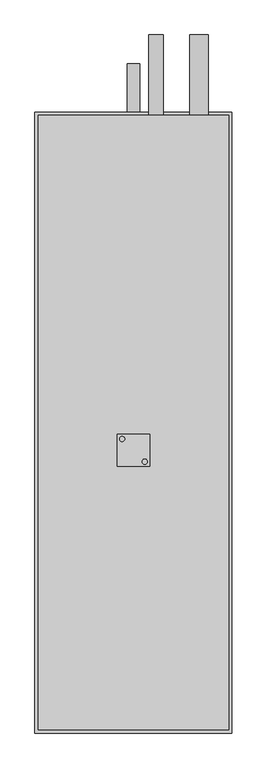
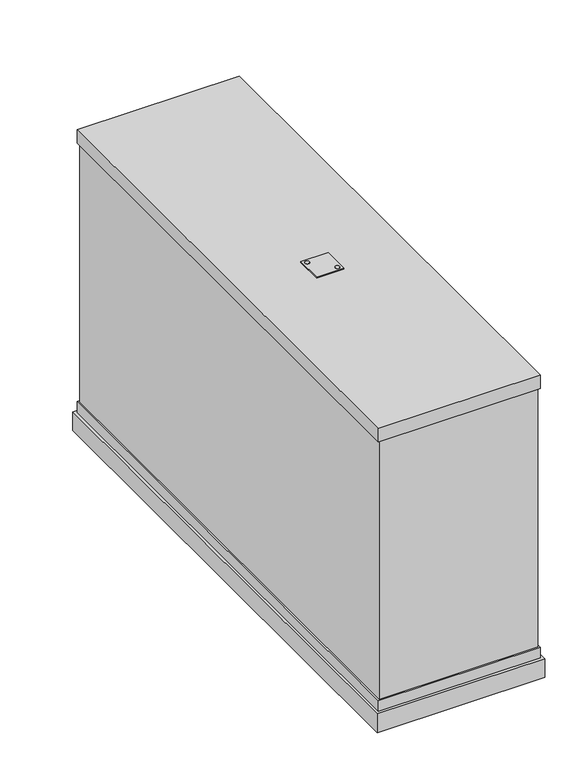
"""IFC4 building model written with IfcOpenShell, lengths in millimetres: proxy geometry, KORF_Воздухоохладитель_Фреоновый_FLO_Правый : FLO 80-50."""

import ifcopenshell
import ifcopenshell.guid

model = None  # the IFC model being written
_history = None  # IfcOwnerHistory: only IFC2X3 demands one
_inside = {}  # id of a spatial element -> (the spatial element, [elements in it])
_under = {}  # id of a project, library or spatial element -> (it, [spatial elements below it])
_declared = {}  # id of a project -> (the project, [libraries it declares])
_typed = {}  # id of a type object -> (the type object, [elements of that type])
_made_of = {}  # id of a material, layer set ... -> (it, [elements and type objects made of it])


def new_model(schema):
    """Start an empty IFC model of exactly this schema.

    Asked for "IFC4X3", IfcOpenShell would pick the latest addendum, in which some entities
    have other attributes; the version numbers below select the first issue.
    IFC2X3 requires an IfcOwnerHistory on every rooted entity: one is made here for all.
    """
    global model, _history
    if schema == "IFC4X3":
        model = ifcopenshell.file(schema_version=(4, 3, 0, 0))
    else:
        model = ifcopenshell.file(schema=schema)
    _inside.clear()
    _under.clear()
    _declared.clear()
    _typed.clear()
    _made_of.clear()
    _history = None
    if model.schema == "IFC2X3":
        org = make("IfcOrganization", Name="unknown")
        user = make(
            "IfcPersonAndOrganization",
            ThePerson=make("IfcPerson", FamilyName="unknown"),
            TheOrganization=org,
        )
        app = make(
            "IfcApplication",
            ApplicationDeveloper=org,
            Version="unknown",
            ApplicationFullName="unknown",
            ApplicationIdentifier="unknown",
        )
        _history = make(
            "IfcOwnerHistory",
            OwningUser=user,
            OwningApplication=app,
            ChangeAction="ADDED",
            CreationDate=0,
        )
    return model


def make(cls, **values):
    """One entity of the class cls with the attributes given. An attribute that is None is left unset."""
    return model.create_entity(
        cls, **{name: value for name, value in values.items() if value is not None}
    )


def rooted(cls, **values):
    """An entity with a GlobalId (a new one), such as an element, a storey or a relation."""
    return make(cls, GlobalId=ifcopenshell.guid.new(), OwnerHistory=_history, **values)


def si_unit(unit_type, name, prefix=None):
    """IfcSIUnit, for example si_unit("LENGTHUNIT", "METRE", prefix="MILLI")."""
    return make("IfcSIUnit", UnitType=unit_type, Prefix=prefix, Name=name)


def assignment(units):
    """IfcUnitAssignment: the units of a project."""
    return None if units is None else make("IfcUnitAssignment", Units=units)


def point(xyz):
    """IfcCartesianPoint."""
    return None if xyz is None else make("IfcCartesianPoint", Coordinates=xyz)


def direction(xyz):
    """IfcDirection."""
    return None if xyz is None else make("IfcDirection", DirectionRatios=xyz)


def frame(location, z_axis=None, x_axis=None):
    """IfcAxis2Placement3D, a coordinate frame: its origin and axes. An axis left out is left unset."""
    return make(
        "IfcAxis2Placement3D",
        Location=point(location),
        Axis=direction(z_axis),
        RefDirection=direction(x_axis),
    )


def frame_2d(location, x_axis=None):
    """IfcAxis2Placement2D, a coordinate frame in the plane: its origin and x axis."""
    return make(
        "IfcAxis2Placement2D", Location=point(location), RefDirection=direction(x_axis)
    )


def origin():
    """The frame at (0, 0, 0) with its axes left unset."""
    return frame((0.0, 0.0, 0.0))


def place(relative_to, where):
    """IfcLocalPlacement: puts the frame where relative to a parent placement (None: the world)."""
    return make(
        "IfcLocalPlacement", PlacementRelTo=relative_to, RelativePlacement=where
    )


def context(
    kind, dimensions, precision=None, world=None, true_north=None, identifier=None
):
    """IfcGeometricRepresentationContext, for example the 3D "Model" context."""
    return make(
        "IfcGeometricRepresentationContext",
        ContextIdentifier=identifier,
        ContextType=kind,
        CoordinateSpaceDimension=dimensions,
        Precision=precision,
        WorldCoordinateSystem=world,
        TrueNorth=true_north,
    )


def project(units=None, contexts=None):
    """IfcProject with its units and contexts."""
    return rooted(
        "IfcProject",
        Name="project",
        RepresentationContexts=contexts,
        UnitsInContext=assignment(units),
    )


def spatial(cls, under=None, at=None, **own):
    """A site, building, storey or space (cls), placed at a placement, below another one or the project."""
    s = rooted(cls, ObjectPlacement=at, **own)
    if under is not None:
        _under.setdefault(under.id(), (under, []))[1].append(s)
    return s


def polyline(points):
    """IfcPolyline through the points."""
    return make("IfcPolyline", Points=[point(p) for p in points])


def circle_curve(where, radius):
    """IfcCircle in the frame where."""
    return make("IfcCircle", Position=where, Radius=radius)


def trimmed(basis, trim1, trim2, sense, master):
    """IfcTrimmedCurve: the piece of a basis curve between two trims."""
    return make(
        "IfcTrimmedCurve",
        BasisCurve=basis,
        Trim1=trim1,
        Trim2=trim2,
        SenseAgreement=sense,
        MasterRepresentation=master,
    )


def segment(curve, same_sense, transition):
    """IfcCompositeCurveSegment."""
    return make(
        "IfcCompositeCurveSegment",
        Transition=transition,
        SameSense=same_sense,
        ParentCurve=curve,
    )


def composite_curve(segments, self_intersect=None):
    """IfcCompositeCurve: segments joined end to end."""
    return make("IfcCompositeCurve", Segments=segments, SelfIntersect=self_intersect)


def outline(outer, holes=None, kind="AREA"):
    """IfcArbitraryClosedProfileDef: a profile drawn as a closed curve; with holes, ...WithVoids."""
    if holes is None:
        return make("IfcArbitraryClosedProfileDef", ProfileType=kind, OuterCurve=outer)
    return make(
        "IfcArbitraryProfileDefWithVoids",
        ProfileType=kind,
        OuterCurve=outer,
        InnerCurves=holes,
    )


def extrude(swept, where, along, depth):
    """IfcExtrudedAreaSolid: the profile swept, set in the frame where, extruded along a direction by depth."""
    return make(
        "IfcExtrudedAreaSolid",
        SweptArea=swept,
        Position=where,
        ExtrudedDirection=direction(along),
        Depth=depth,
    )


def faces_of(points, faces, orient=None, outer=None):
    """IfcFace entities. A face is a list of loops; a loop is a list of indices into points, from 0.

    orient and outer hold one flag for each loop. By default every Orientation is true, the
    first loop of a face is its IfcFaceOuterBound and the others are IfcFaceBound.
    """
    made = []
    for i, loops in enumerate(faces):
        bounds = []
        for j, loop in enumerate(loops):
            is_outer = j == 0 if outer is None else outer[i][j]
            bounds.append(
                make(
                    "IfcFaceOuterBound" if is_outer else "IfcFaceBound",
                    Bound=make("IfcPolyLoop", Polygon=[points[k] for k in loop]),
                    Orientation=True if orient is None else orient[i][j],
                )
            )
        made.append(make("IfcFace", Bounds=bounds))
    return made


def faceted_brep(points, faces, orient=None, outer=None, voids=None):
    """IfcFacetedBrep: a solid bounded by flat faces; with voids (closed shells), ...WithVoids."""
    shared = [point(p) for p in points]
    hull = make("IfcClosedShell", CfsFaces=faces_of(shared, faces, orient, outer))
    if voids is None:
        return make("IfcFacetedBrep", Outer=hull)
    return make(
        "IfcFacetedBrepWithVoids",
        Outer=hull,
        Voids=[
            make(cls, CfsFaces=faces_of(shared, fs, o, b)) for cls, fs, o, b in voids
        ],
    )


def shape(context_of_items, identifier, shape_type, items):
    """IfcShapeRepresentation: the items that make up one representation, for example the "Body"."""
    return make(
        "IfcShapeRepresentation",
        ContextOfItems=context_of_items,
        RepresentationIdentifier=identifier,
        RepresentationType=shape_type,
        Items=items,
    )


def source(mapping_origin, context_of_items, identifier, shape_type, items):
    """IfcRepresentationMap: a shape defined once, which mapped items show again and again."""
    return make(
        "IfcRepresentationMap",
        MappingOrigin=mapping_origin,
        MappedRepresentation=shape(context_of_items, identifier, shape_type, items),
    )


def transform(
    local_origin,
    x_axis=None,
    y_axis=None,
    z_axis=None,
    scale=None,
    scale2=None,
    scale3=None,
    uniform=True,
):
    """IfcCartesianTransformationOperator3D, or its non-uniform kind. x_axis, y_axis, z_axis: its Axis1, 2, 3."""
    if uniform:
        return make(
            "IfcCartesianTransformationOperator3D",
            Axis1=direction(x_axis),
            Axis2=direction(y_axis),
            LocalOrigin=point(local_origin),
            Scale=scale,
            Axis3=direction(z_axis),
        )
    return make(
        "IfcCartesianTransformationOperator3DnonUniform",
        Axis1=direction(x_axis),
        Axis2=direction(y_axis),
        LocalOrigin=point(local_origin),
        Scale=scale,
        Axis3=direction(z_axis),
        Scale2=scale2,
        Scale3=scale3,
    )


def mapped(mapping_source, mapping_target):
    """IfcMappedItem: shows the shape of a source again, moved by a transform."""
    return make(
        "IfcMappedItem", MappingSource=mapping_source, MappingTarget=mapping_target
    )


def made_of(thing, what):
    """Note that an element or type object is made of a material, layer set ...; save() writes the relation."""
    if what is not None:
        _made_of.setdefault(what.id(), (what, []))[1].append(thing)
    return thing


def element(
    cls,
    number,
    at=None,
    inside=None,
    cuts=None,
    type_object=None,
    material=None,
    context=None,
    identifier="Body",
    shape_type=None,
    held_by="IfcProductDefinitionShape",
    body=None,
    shapes=None,
    **own,
):
    """One element of the class cls, such as IfcWall. Its Tag is "e" and its number.

    at: its placement. inside: the storey or other place that contains it. cuts: it is an
    opening in that element (IfcRelVoidsElement). A single representation is given by context,
    identifier, shape_type and body (its items); several are given by shapes. held_by: the class
    of the entity that holds the representations. save() writes the other relations.
    """
    e = rooted(cls, Tag="e%d" % number, ObjectPlacement=at, **own)
    if body is not None:
        shapes = [shape(context, identifier, shape_type, body)]
    if shapes is not None:
        e.Representation = make(held_by, Representations=shapes)
    if inside is not None:
        _inside.setdefault(inside.id(), (inside, []))[1].append(e)
    if cuts is not None:
        rooted(
            "IfcRelVoidsElement", RelatingBuildingElement=cuts, RelatedOpeningElement=e
        )
    if type_object is not None:
        _typed.setdefault(type_object.id(), (type_object, []))[1].append(e)
    return made_of(e, material)


def aggregate(whole, parts):
    """IfcRelAggregates: a whole, such as a stair, and the parts it consists of."""
    return rooted("IfcRelAggregates", RelatingObject=whole, RelatedObjects=parts)


def save(model, path):
    """Write the relations noted so far, then the file.

    IfcRelAggregates (storeys below a building ...), IfcRelContainedInSpatialStructure (elements
    in a storey), IfcRelDefinesByType, IfcRelAssociatesMaterial and IfcRelDeclares: one each for
    every whole, place, type object, material and project.
    """
    for whole, parts in _under.values():
        aggregate(whole, parts)
    for where, things in _inside.values():
        rooted(
            "IfcRelContainedInSpatialStructure",
            RelatedElements=things,
            RelatingStructure=where,
        )
    for kind, things in _typed.values():
        rooted("IfcRelDefinesByType", RelatedObjects=things, RelatingType=kind)
    for what, things in _made_of.values():
        rooted("IfcRelAssociatesMaterial", RelatedObjects=things, RelatingMaterial=what)
    for by, libraries in _declared.values():
        rooted("IfcRelDeclares", RelatingContext=by, RelatedDefinitions=libraries)
    model.write(path)


def mechanical_equipment_b5ee6b95(model_context):
    return source(origin(), model_context, "Body", "SolidModel", [
        extrude(outline(composite_curve([segment(trimmed(circle_curve(frame_2d((170.5727066, -17.5745746)), 4.0), [point((174.5727066, -17.5745746))], [point((166.5727066, -17.5745746))], False, "CARTESIAN"), True, "CONTINUOUS"), segment(trimmed(circle_curve(frame_2d((170.5727066, -17.5745746)), 4.0), [point((166.5727066, -17.5745746))], [point((174.5727066, -17.5745746))], False, "CARTESIAN"), True, "CONTINUOUS")], self_intersect=False)), frame((0.0, 0.0, 276.0), z_axis=(0.0, 0.0, 1.0), x_axis=(1.0, 0.0, 0.0)), (0.0, 0.0, 1.0), 2.0),
        extrude(outline(composite_curve([segment(trimmed(circle_curve(frame_2d((135.4272934, 17.5745746)), 4.0), [point((131.4272934, 17.5745746))], [point((139.4272934, 17.5745746))], False, "CARTESIAN"), True, "CONTINUOUS"), segment(trimmed(circle_curve(frame_2d((135.4272934, 17.5745746)), 4.0), [point((139.4272934, 17.5745746))], [point((131.4272934, 17.5745746))], False, "CARTESIAN"), True, "CONTINUOUS")], self_intersect=False)), frame((0.0, 0.0, 276.0), z_axis=(0.0, 0.0, 1.0), x_axis=(1.0, 0.0, 0.0)), (0.0, 0.0, 1.0), 2.0),
        extrude(outline(polyline([(128.0, -25.0), (128.0, 25.0), (178.0, 25.0), (178.0, -25.0), (128.0, -25.0)]), holes=[composite_curve([segment(trimmed(circle_curve(frame_2d((170.5727066, -17.5745746)), 4.0), [point((174.5727066, -17.5745746))], [point((166.5727066, -17.5745746))], True, "CARTESIAN"), True, "CONTINUOUS"), segment(trimmed(circle_curve(frame_2d((170.5727066, -17.5745746)), 4.0), [point((166.5727066, -17.5745746))], [point((174.5727066, -17.5745746))], True, "CARTESIAN"), True, "CONTINUOUS")], self_intersect=False), composite_curve([segment(trimmed(circle_curve(frame_2d((135.4272934, 17.5745746)), 4.0), [point((131.4272934, 17.5745746))], [point((139.4272934, 17.5745746))], True, "CARTESIAN"), True, "CONTINUOUS"), segment(trimmed(circle_curve(frame_2d((135.4272934, 17.5745746)), 4.0), [point((139.4272934, 17.5745746))], [point((131.4272934, 17.5745746))], True, "CARTESIAN"), True, "CONTINUOUS")], self_intersect=False)]), frame((0.0, 0.0, 276.0), z_axis=(0.0, 0.0, 1.0), x_axis=(1.0, 0.0, 0.0)), (0.0, 0.0, 1.0), 2.0),
        faceted_brep([(306.0, -439.0, -271.0), (306.0, -439.0, -307.0), (306.0, 525.0, -307.0), (306.0, 525.0, -271.0), (0.0, -439.0, -271.0), (0.0, 525.0, -271.0), (0.0, 525.0, -307.0), (0.0, -439.0, -307.0), (301.0, 520.0, -271.0), (301.0, -434.0, -271.0), (5.0, -434.0, -271.0), (5.0, 520.0, -271.0), (298.0, -431.0, 250.0), (298.0, -431.0, -250.0), (298.0, -400.0, -250.0), (298.0, 400.0, -250.0), (298.0, 517.0, -250.0), (298.0, 517.0, 250.0), (298.0, 400.0, 250.0), (298.0, -400.0, 250.0), (8.0, 517.0, 250.0), (8.0, 517.0, -250.0), (8.0, 400.0, -250.0), (8.0, -400.0, -250.0), (8.0, -431.0, -250.0), (8.0, -431.0, 250.0), (8.0, -400.0, 250.0), (8.0, 400.0, 250.0), (301.0, -434.0, 250.0), (301.0, 520.0, 250.0), (301.0, 520.0, 276.0), (301.0, -434.0, 276.0), (301.0, -434.0, -250.0), (301.0, 520.0, -250.0), (5.0, -434.0, 250.0), (5.0, -434.0, 276.0), (5.0, 520.0, 276.0), (5.0, 520.0, 250.0), (5.0, -434.0, -250.0), (5.0, 520.0, -250.0)], [[[0, 1, 2, 3]], [[4, 5, 6, 7]], [[1, 0, 4, 7]], [[2, 1, 7, 6]], [[3, 2, 6, 5]], [[0, 3, 5, 4], [8, 9, 10, 11]], [[12, 13, 14, 15, 16, 17, 18, 19]], [[20, 21, 22, 23, 24, 25, 26, 27]], [[13, 12, 25, 24]], [[17, 16, 21, 20]], [[28, 29, 30, 31]], [[32, 9, 8, 33]], [[34, 35, 36, 37]], [[38, 39, 11, 10]], [[29, 28, 34, 37], [12, 19, 18, 17, 20, 27, 26, 25]], [[30, 29, 37, 36]], [[31, 30, 36, 35]], [[28, 31, 35, 34]], [[9, 32, 38, 10]], [[33, 8, 11, 39]], [[32, 33, 39, 38], [14, 13, 24, 23, 22, 21, 16, 15]]]),
        extrude(outline(composite_curve([segment(trimmed(circle_curve(frame_2d((-199.0, 255.0)), 14.285), [point((-199.0, 240.715))], [point((-199.0, 269.285))], False, "CARTESIAN"), True, "CONTINUOUS"), segment(trimmed(circle_curve(frame_2d((-199.0, 255.0)), 14.285), [point((-199.0, 269.285))], [point((-199.0, 240.715))], False, "CARTESIAN"), True, "CONTINUOUS")], self_intersect=False)), frame((0.0, 517.0, 0.0), z_axis=(0.0, 1.0, 0.0), x_axis=(0.0, 0.0, 1.0)), (0.0, 0.0, 1.0), 128.0),
        extrude(outline(composite_curve([segment(trimmed(circle_curve(frame_2d((91.0, 188.0)), 11.11), [point((91.0, 176.89))], [point((91.0, 199.11))], False, "CARTESIAN"), True, "CONTINUOUS"), segment(trimmed(circle_curve(frame_2d((91.0, 188.0)), 11.11), [point((91.0, 199.11))], [point((91.0, 176.89))], False, "CARTESIAN"), True, "CONTINUOUS")], self_intersect=False)), frame((0.0, 517.0, 0.0), z_axis=(0.0, 1.0, 0.0), x_axis=(0.0, 0.0, 1.0)), (0.0, 0.0, 1.0), 128.0),
        extrude(outline(composite_curve([segment(trimmed(circle_curve(frame_2d((-289.0, 153.0)), 10.0), [point((-289.0, 143.0))], [point((-289.0, 163.0))], False, "CARTESIAN"), True, "CONTINUOUS"), segment(trimmed(circle_curve(frame_2d((-289.0, 153.0)), 10.0), [point((-289.0, 163.0))], [point((-289.0, 143.0))], False, "CARTESIAN"), True, "CONTINUOUS")], self_intersect=False)), frame((0.0, 525.0, 0.0), z_axis=(0.0, 1.0, 0.0), x_axis=(0.0, 0.0, 1.0)), (0.0, 0.0, 1.0), 75.0),
    ])


if __name__ == "__main__":
    model = new_model("IFC4")
    model_context = context("Model", 3, world=origin())
    ifc_project = project(units=[si_unit("LENGTHUNIT", "METRE", prefix="MILLI")], contexts=[model_context])
    site = spatial("IfcSite", under=ifc_project)
    building = spatial("IfcBuilding", under=site)
    placement = place(None, origin())
    mechanical_equipment_shape = mechanical_equipment_b5ee6b95(model_context)
    element("IfcBuildingElementProxy", 1, Name="KORF_Воздухоохладитель_Фреоновый_FLO_Правый : FLO 80-50", ObjectType="KORF_Воздухоохладитель_Фреоновый_FLO_Правый : FLO 80-50", at=placement, inside=building, context=model_context, shape_type="MappedRepresentation", body=[
        mapped(mechanical_equipment_shape, transform((0.0, 0.0, 0.0), x_axis=(1.0, 0.0, 0.0), y_axis=(0.0, 1.0, 0.0), z_axis=(0.0, 0.0, 1.0))),
    ])
    save(model, "model.ifc")
